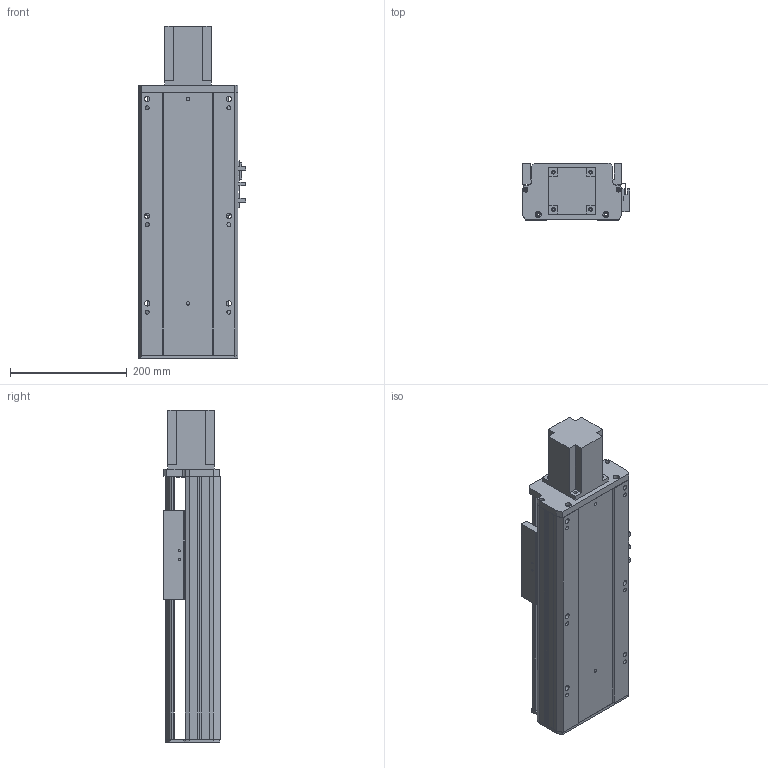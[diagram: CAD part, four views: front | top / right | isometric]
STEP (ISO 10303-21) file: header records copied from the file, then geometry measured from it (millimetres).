
FILE_DESCRIPTION (( 'STEP AP203' ), '1' );
FILE_NAME ('Y170-D10-S200-BD-P750W.STEP', '2020-01-22T03:48:52', ( '微软用户' ), ( '微软中国' ), 'SwSTEP 2.0', 'SolidWorks 2017', '' );
FILE_SCHEMA (( 'CONFIG_CONTROL_DESIGN' ));
Length unit declared in the file: millimetre
Products named in the file (10): Y170-萇儂楊擘啣--; 135-盓傅釱-FK15; 侂狟750W; Y170耜裔--準---; Y170-陔遴奻裔-BD; Y170--雄赽釱-梓--; YD-Y100-135-新外置传感挡片(通用）; Y170-D10-S200-BD-P750W; Y100-135俋离換覜ん; 170--掛极-BD
Assembly tree (11 placements, depth 2):
  Y170-D10-S200-BD-P750W
    YD-Y100-135-新外置传感挡片(通用）
    Y100-135俋离換覜ん  x3
    170--掛极-BD
    Y170-萇儂楊擘啣--
    135-盓傅釱-FK15
    侂狟750W
    Y170耜裔--準---
    Y170-陔遴奻裔-BD
    Y170--雄赽釱-梓--
Bounding box: 183.5 x 97 x 568.5 mm (x, y, z)
Volume: 2874789.9 mm3; surface area: 856796.9 mm2
Topology: 11 solids, 11 shells, 780 faces, 2163 edges, 1432 vertices
Faces by surface type: cylinder 390, plane 388, torus 2
Entity records: 24751 total; most frequent: CARTESIAN_POINT 4235, DIRECTION 4185, ORIENTED_EDGE 3990, EDGE_CURVE 1995, AXIS2_PLACEMENT_3D 1494, VERTEX_POINT 1320, LINE 1197, VECTOR 1197
